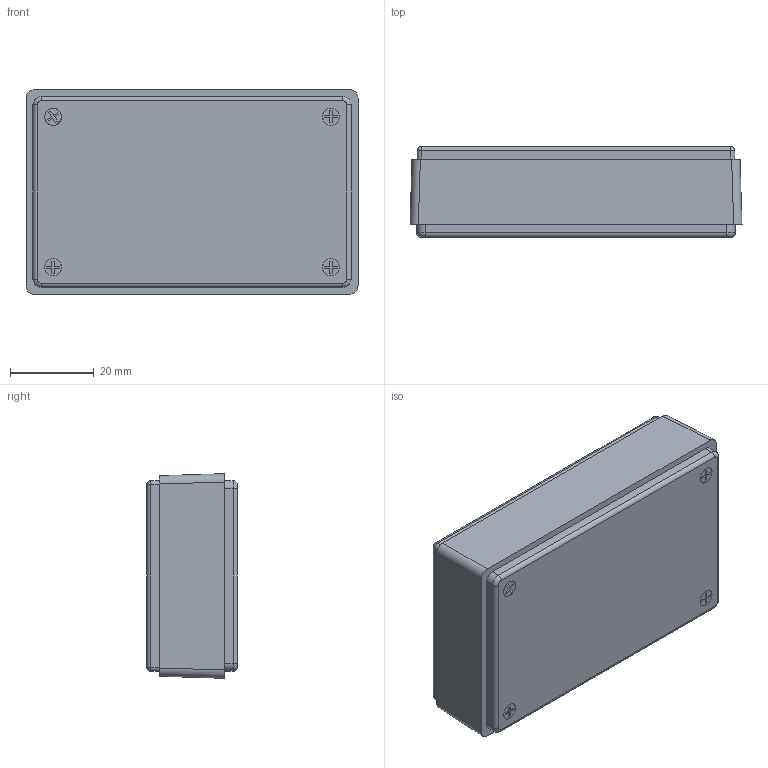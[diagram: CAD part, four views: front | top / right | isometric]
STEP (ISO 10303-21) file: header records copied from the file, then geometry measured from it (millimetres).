
FILE_DESCRIPTION (( 'STEP AP214' ), '1' );
FILE_NAME ('Conjunt PP113.STEP', '2017-11-10T11:50:46', ( 'aaa' ), ( '' ), 'SwSTEP 2.0', 'SolidWorks 2013', '' );
FILE_SCHEMA (( 'AUTOMOTIVE_DESIGN' ));
Length unit declared in the file: millimetre
Products named in the file (5): Tapa PP113; Cos PP113; Conjunt PP113; Cargol  PP113 2,2x6,6; Cargol PP113  2,2x9,3
Assembly tree (8 placements, depth 2):
  Conjunt PP113
    Cos PP113
    Tapa PP113
    Cargol PP113  2,2x9,3  x4
    Cargol  PP113 2,2x6,6  x2
Bounding box: 79.5 x 21.7 x 49 mm (x, y, z)
Volume: 24615.8 mm3; surface area: 27232.8 mm2
Topology: 8 solids, 8 shells, 595 faces, 1308 edges, 738 vertices
Faces by surface type: cone 356, plane 149, cylinder 82, torus 4, sphere 4
Entity records: 8236 total; most frequent: DIRECTION 1504, CARTESIAN_POINT 1368, ORIENTED_EDGE 1304, EDGE_CURVE 652, AXIS2_PLACEMENT_3D 558, VERTEX_POINT 390, LINE 388, VECTOR 388
